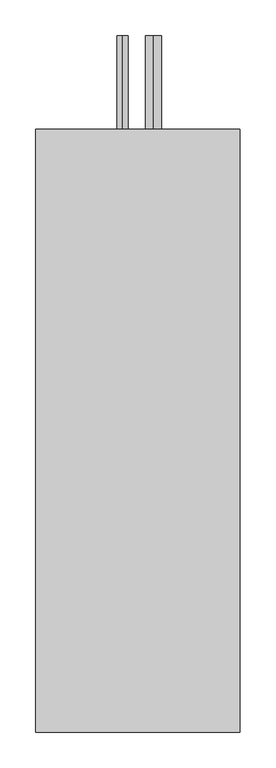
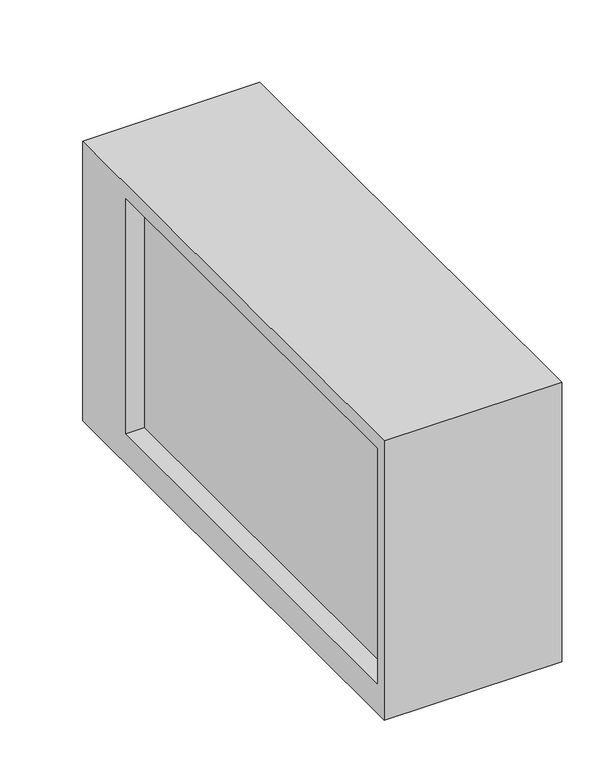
"""IFC4 building model written with IfcOpenShell, lengths in millimetres: proxy geometry, СВ_ВоздухоохладительФреоновый_КанальныйПрямоугольный_200-1000_SPC-F : SPC-F-700x400-L."""

from ifc_helpers import new_model, si_unit, point, frame, frame_2d, origin, place, context, project, spatial, polyline, circle_curve, trimmed, segment, composite_curve, outline, extrude, source, transform, mapped, element, save


def mechanical_equipment_e2811cc5(model_context):
    return source(origin(), model_context, "Body", "SweptSolid", [
        extrude(outline(polyline([(-370.0, -250.0), (-370.0, 225.0), (470.0, 225.0), (470.0, -250.0), (-370.0, -250.0)]), holes=[polyline([(-350.0, 200.0), (-350.0, -200.0), (350.0, -200.0), (350.0, 200.0), (-350.0, 200.0)])]), frame((-142.5, 0.0, 0.0), z_axis=(1.0, 0.0, 0.0), x_axis=(0.0, 1.0, 0.0)), (0.0, 0.0, 1.0), 285.0),
        extrude(outline(composite_curve([segment(trimmed(circle_curve(frame_2d((-150.0, 21.5)), 11.1), [point((-161.1, 21.5))], [point((-138.9, 21.5))], False, "CARTESIAN"), True, "CONTINUOUS"), segment(trimmed(circle_curve(frame_2d((-150.0, 21.5)), 11.1), [point((-138.9, 21.5))], [point((-161.1, 21.5))], False, "CARTESIAN"), True, "CONTINUOUS")], self_intersect=False)), frame((0.0, 470.0, 0.0), z_axis=(0.0, 1.0, 0.0), x_axis=(0.0, 0.0, 1.0)), (0.0, 0.0, 1.0), 130.0),
        extrude(outline(composite_curve([segment(trimmed(circle_curve(frame_2d((80.0, -21.5)), 7.95), [point((72.05, -21.5))], [point((87.95, -21.5))], False, "CARTESIAN"), True, "CONTINUOUS"), segment(trimmed(circle_curve(frame_2d((80.0, -21.5)), 7.95), [point((87.95, -21.5))], [point((72.05, -21.5))], False, "CARTESIAN"), True, "CONTINUOUS")], self_intersect=False)), frame((0.0, 470.0, 0.0), z_axis=(0.0, 1.0, 0.0), x_axis=(0.0, 0.0, 1.0)), (0.0, 0.0, 1.0), 130.0),
        extrude(outline(composite_curve([segment(trimmed(circle_curve(frame_2d((0.0, 430.0)), 11.0), [point((-11.0, 430.0))], [point((11.0, 430.0))], False, "CARTESIAN"), True, "CONTINUOUS"), segment(trimmed(circle_curve(frame_2d((0.0, 430.0)), 11.0), [point((11.0, 430.0))], [point((-11.0, 430.0))], False, "CARTESIAN"), True, "CONTINUOUS")], self_intersect=False)), frame((0.0, 0.0, -270.0), z_axis=(0.0, 0.0, 1.0), x_axis=(1.0, 0.0, 0.0)), (0.0, 0.0, 1.0), 20.0),
        extrude(outline(polyline([(112.5, 350.0), (112.5, -350.0), (-112.5, -350.0), (-112.5, 350.0), (112.5, 350.0)])), frame((0.0, 0.0, -200.0), z_axis=(0.0, 0.0, 1.0), x_axis=(1.0, 0.0, 0.0)), (0.0, 0.0, 1.0), 400.0),
    ])


if __name__ == "__main__":
    model = new_model("IFC4")
    model_context = context("Model", 3, world=origin())
    ifc_project = project(units=[si_unit("LENGTHUNIT", "METRE", prefix="MILLI")], contexts=[model_context])
    site = spatial("IfcSite", under=ifc_project)
    building = spatial("IfcBuilding", under=site)
    placement = place(None, origin())
    mechanical_equipment_shape = mechanical_equipment_e2811cc5(model_context)
    element("IfcBuildingElementProxy", 1, Name="СВ_ВоздухоохладительФреоновый_КанальныйПрямоугольный_200-1000_SPC-F : SPC-F-700x400-L", ObjectType="СВ_ВоздухоохладительФреоновый_КанальныйПрямоугольный_200-1000_SPC-F : SPC-F-700x400-L", at=placement, inside=building, context=model_context, shape_type="MappedRepresentation", body=[
        mapped(mechanical_equipment_shape, transform((0.0, 0.0, 0.0), x_axis=(1.0, 0.0, 0.0), y_axis=(0.0, 1.0, 0.0), z_axis=(0.0, 0.0, 1.0))),
    ])
    save(model, "model.ifc")
